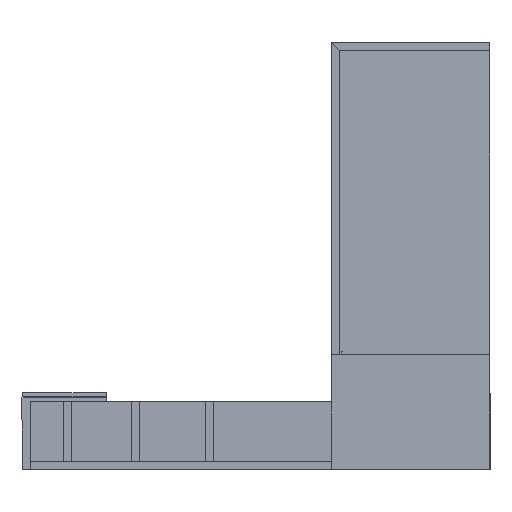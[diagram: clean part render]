
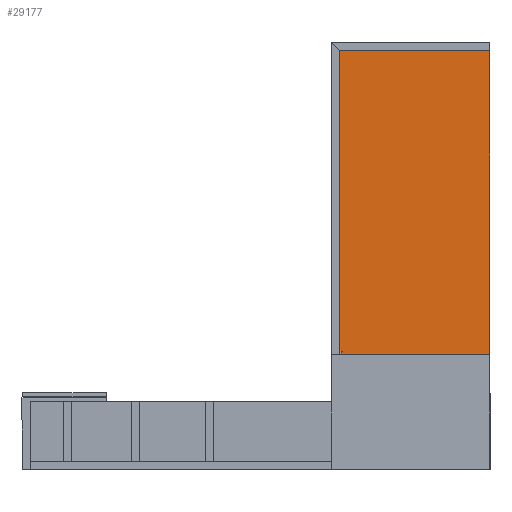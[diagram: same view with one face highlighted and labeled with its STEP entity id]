
A CAD part, left-side view. The second image highlights one B-rep face of the part: STEP entity #29177.
In plain terms, the highlighted planar face has unit normal (-1, 0, 0) as drawn and (0, 0, -1) by its records, which use the part's own axes.
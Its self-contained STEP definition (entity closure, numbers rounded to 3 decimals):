
#3492=PLANE('',#31583);
#4518=FACE_OUTER_BOUND('',#6119,.T.);
#6119=EDGE_LOOP('',(#21924,#21925,#21926,#21927));
#8156=LINE('',#44852,#10849);
#8157=LINE('',#44854,#10850);
#8158=LINE('',#44856,#10851);
#8159=LINE('',#44857,#10852);
#10849=VECTOR('',#35595,0.394);
#10850=VECTOR('',#35596,0.394);
#10851=VECTOR('',#35597,0.394);
#10852=VECTOR('',#35598,0.394);
#14369=VERTEX_POINT('',#44850);
#14370=VERTEX_POINT('',#44851);
#14371=VERTEX_POINT('',#44853);
#14372=VERTEX_POINT('',#44855);
#17179=EDGE_CURVE('',#14369,#14370,#8156,.T.);
#17180=EDGE_CURVE('',#14370,#14371,#8157,.T.);
#17181=EDGE_CURVE('',#14372,#14371,#8158,.T.);
#17182=EDGE_CURVE('',#14369,#14372,#8159,.T.);
#21924=ORIENTED_EDGE('',*,*,#17179,.T.);
#21925=ORIENTED_EDGE('',*,*,#17180,.T.);
#21926=ORIENTED_EDGE('',*,*,#17181,.F.);
#21927=ORIENTED_EDGE('',*,*,#17182,.F.);
#29177=ADVANCED_FACE('',(#4518),#3492,.T.);
#31583=AXIS2_PLACEMENT_3D('',#44849,#35593,#35594);
#35593=DIRECTION('center_axis',(0.,0.,
-1.));
#35594=DIRECTION('ref_axis',(0.,1.,0.));
#35595=DIRECTION('',(0.,1.,0.));
#35596=DIRECTION('',(1.,0.,0.));
#35597=DIRECTION('',(0.,1.,0.));
#35598=DIRECTION('',(1.,0.,0.));
#44849=CARTESIAN_POINT('Origin',(1.5,0.,
6.));
#44850=CARTESIAN_POINT('',(1.5,0.,6.));
#44851=CARTESIAN_POINT('',(1.5,27.5,6.));
#44852=CARTESIAN_POINT('',(1.5,0.,6.));
#44853=CARTESIAN_POINT('',(70.,27.5,6.));
#44854=CARTESIAN_POINT('',(1.5,27.5,6.));
#44855=CARTESIAN_POINT('',(70.,0.,6.));
#44856=CARTESIAN_POINT('',(70.,0.,6.));
#44857=CARTESIAN_POINT('',(1.5,0.,6.));
